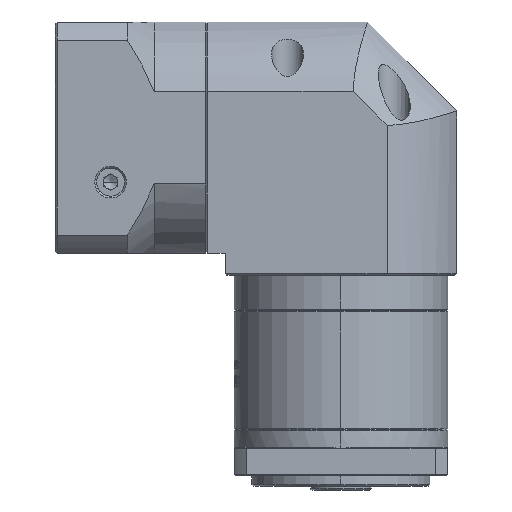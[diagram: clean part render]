
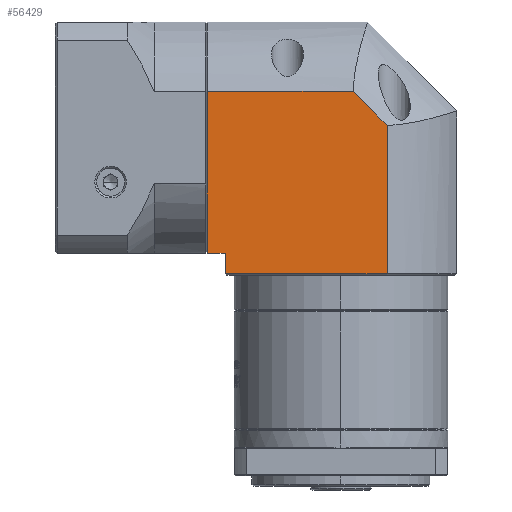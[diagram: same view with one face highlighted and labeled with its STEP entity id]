
A CAD part, left-side view. The second image highlights one B-rep face of the part: STEP entity #56429.
In plain terms, the highlighted planar face has unit normal (-1, 0, 0).
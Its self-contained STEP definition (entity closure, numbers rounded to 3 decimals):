
#119 = EDGE_CURVE ( 'NONE', #106254, #96926, #26543, .T. ) ;
#917 = VECTOR ( 'NONE', #4773, 1000. ) ;
#4248 = DIRECTION ( 'NONE',  ( 0., 0., -1. ) ) ;
#4773 = DIRECTION ( 'NONE',  ( 0., 1., 0. ) ) ;
#12855 = CARTESIAN_POINT ( 'NONE',  ( -85.583, 2.482, 42.8 ) ) ;
#14231 = CARTESIAN_POINT ( 'NONE',  ( -85.583, 2.482, -2.69 ) ) ;
#14878 = CARTESIAN_POINT ( 'NONE',  ( -85.583, 2.482, -12.69 ) ) ;
#15669 = CARTESIAN_POINT ( 'NONE',  ( -85.583, 72.482, 42.8 ) ) ;
#18653 = EDGE_CURVE ( 'NONE', #97140, #47940, #91397, .T. ) ;
#19227 = LINE ( 'NONE', #14231, #917 ) ;
#21179 = ORIENTED_EDGE ( 'NONE', *, *, #101408, .F. ) ;
#26543 = LINE ( 'NONE', #33715, #78790 ) ;
#27490 = CARTESIAN_POINT ( 'NONE',  ( -85.583, 21.992, 33.302 ) ) ;
#27773 = VERTEX_POINT ( 'NONE', #28040 ) ;
#28040 = CARTESIAN_POINT ( 'NONE',  ( -85.583, 21.992, -8.39 ) ) ;
#28520 = CARTESIAN_POINT ( 'NONE',  ( -85.583, 67.482, -2.69 ) ) ;
#29369 = EDGE_CURVE ( 'NONE', #105426, #27773, #97624, .T. ) ;
#33715 = CARTESIAN_POINT ( 'NONE',  ( -85.583, -339.313, -328.002 ) ) ;
#34934 = FACE_OUTER_BOUND ( 'NONE', #94670, .T. ) ;
#35671 = CARTESIAN_POINT ( 'NONE',  ( -85.583, 72.482, -2.69 ) ) ;
#41715 = ORIENTED_EDGE ( 'NONE', *, *, #73205, .F. ) ;
#42351 = LINE ( 'NONE', #45981, #93127 ) ;
#45981 = CARTESIAN_POINT ( 'NONE',  ( -85.583, 21.992, 62.31 ) ) ;
#47894 = AXIS2_PLACEMENT_3D ( 'NONE', #14878, #55486, #73347 ) ;
#47940 = VERTEX_POINT ( 'NONE', #35671 ) ;
#48063 = VECTOR ( 'NONE', #64767, 1000. ) ;
#50235 = ORIENTED_EDGE ( 'NONE', *, *, #119, .F. ) ;
#54522 = ORIENTED_EDGE ( 'NONE', *, *, #94855, .F. ) ;
#55486 = DIRECTION ( 'NONE',  ( -1., 0., 0. ) ) ;
#56429 = ADVANCED_FACE ( 'NONE', ( #34934 ), #71880, .T. ) ;
#58727 = LINE ( 'NONE', #85019, #89951 ) ;
#58845 = CARTESIAN_POINT ( 'NONE',  ( -85.583, 72.482, -2.69 ) ) ;
#59510 = DIRECTION ( 'NONE',  ( 0., 0., 1. ) ) ;
#64767 = DIRECTION ( 'NONE',  ( 0., -1., 0. ) ) ;
#65408 = CARTESIAN_POINT ( 'NONE',  ( -85.583, 67.482, -8.39 ) ) ;
#71489 = EDGE_CURVE ( 'NONE', #105426, #92491, #58727, .T. ) ;
#71880 = PLANE ( 'NONE',  #47894 ) ;
#73205 = EDGE_CURVE ( 'NONE', #97140, #106254, #89454, .T. ) ;
#73347 = DIRECTION ( 'NONE',  ( 0., 0., -1. ) ) ;
#73807 = VECTOR ( 'NONE', #78948, 1000. ) ;
#78790 = VECTOR ( 'NONE', #92381, 1000. ) ;
#78948 = DIRECTION ( 'NONE',  ( 0., -1., 0. ) ) ;
#85019 = CARTESIAN_POINT ( 'NONE',  ( -85.583, 67.482, -12.69 ) ) ;
#86545 = ORIENTED_EDGE ( 'NONE', *, *, #29369, .T. ) ;
#88746 = VECTOR ( 'NONE', #99312, 1000. ) ;
#89454 = LINE ( 'NONE', #12855, #73807 ) ;
#89935 = ORIENTED_EDGE ( 'NONE', *, *, #18653, .T. ) ;
#89951 = VECTOR ( 'NONE', #59510, 1000. ) ;
#91397 = LINE ( 'NONE', #58845, #88746 ) ;
#92381 = DIRECTION ( 'NONE',  ( 0., -0.707, -0.707 ) ) ;
#92491 = VERTEX_POINT ( 'NONE', #28520 ) ;
#93127 = VECTOR ( 'NONE', #4248, 1000. ) ;
#94670 = EDGE_LOOP ( 'NONE', ( #50235, #41715, #89935, #21179, #106791, #86545, #54522 ) ) ;
#94855 = EDGE_CURVE ( 'NONE', #96926, #27773, #42351, .T. ) ;
#96926 = VERTEX_POINT ( 'NONE', #27490 ) ;
#97140 = VERTEX_POINT ( 'NONE', #15669 ) ;
#97624 = LINE ( 'NONE', #98298, #48063 ) ;
#98298 = CARTESIAN_POINT ( 'NONE',  ( -85.583, 2.482, -8.39 ) ) ;
#99312 = DIRECTION ( 'NONE',  ( 0., 0., -1. ) ) ;
#101408 = EDGE_CURVE ( 'NONE', #92491, #47940, #19227, .T. ) ;
#101684 = CARTESIAN_POINT ( 'NONE',  ( -85.583, 31.489, 42.8 ) ) ;
#105426 = VERTEX_POINT ( 'NONE', #65408 ) ;
#106254 = VERTEX_POINT ( 'NONE', #101684 ) ;
#106791 = ORIENTED_EDGE ( 'NONE', *, *, #71489, .F. ) ;
